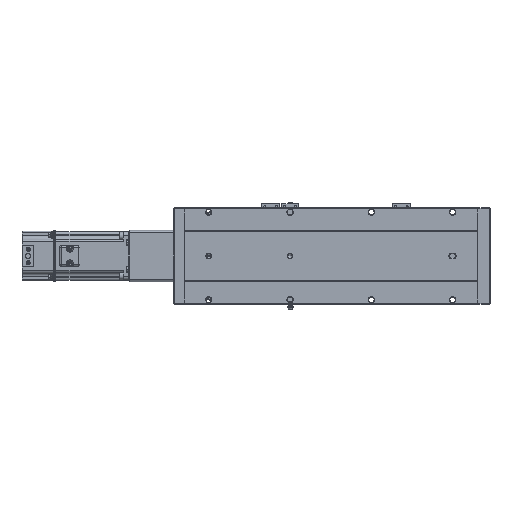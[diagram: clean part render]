
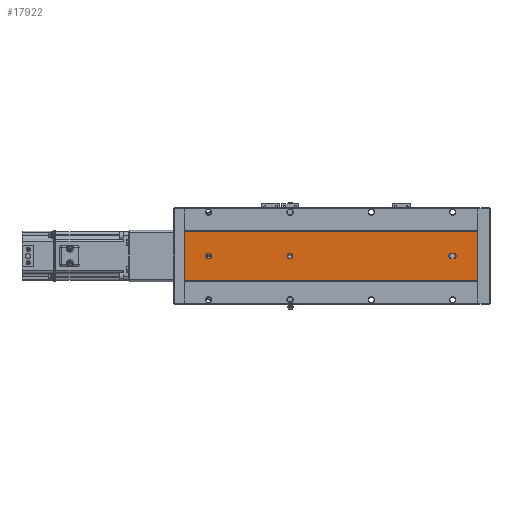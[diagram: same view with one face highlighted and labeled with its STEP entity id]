
A CAD part, front view. The second image highlights one B-rep face of the part: STEP entity #17922.
In plain terms, the highlighted planar face has unit normal (0, -1, 0).
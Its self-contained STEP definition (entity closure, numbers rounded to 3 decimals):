
#493 = EDGE_CURVE ( 'NONE', #4199, #62830, #75055, .T. ) ;
#1843 = AXIS2_PLACEMENT_3D ( 'NONE', #38014, #44311, #31120 ) ;
#2028 = CIRCLE ( 'NONE', #26612, 3.5 ) ;
#2579 = VERTEX_POINT ( 'NONE', #46319 ) ;
#2583 = DIRECTION ( 'NONE',  ( 0., 0., -1. ) ) ;
#4199 = VERTEX_POINT ( 'NONE', #30181 ) ;
#4500 = CIRCLE ( 'NONE', #70162, 3.5 ) ;
#5598 = LINE ( 'NONE', #44609, #47547 ) ;
#6415 = DIRECTION ( 'NONE',  ( 0., 0., 1. ) ) ;
#6951 = EDGE_CURVE ( 'NONE', #8586, #4199, #2028, .T. ) ;
#7330 = DIRECTION ( 'NONE',  ( 0., 1., 0. ) ) ;
#7348 = EDGE_CURVE ( 'NONE', #62830, #31433, #76902, .T. ) ;
#7372 = CARTESIAN_POINT ( 'NONE',  ( -43.392, -52.848, 30. ) ) ;
#7636 = VERTEX_POINT ( 'NONE', #61624 ) ;
#8586 = VERTEX_POINT ( 'NONE', #69158 ) ;
#8928 = EDGE_CURVE ( 'NONE', #26456, #40181, #73605, .T. ) ;
#11183 = EDGE_LOOP ( 'NONE', ( #35909, #57990 ) ) ;
#13083 = DIRECTION ( 'NONE',  ( 0., 1., 0. ) ) ;
#13781 = EDGE_LOOP ( 'NONE', ( #41190, #32007 ) ) ;
#14823 = CARTESIAN_POINT ( 'NONE',  ( -36.392, -52.848, 32. ) ) ;
#16371 = VECTOR ( 'NONE', #6415, 1000. ) ;
#17088 = CIRCLE ( 'NONE', #69554, 3.5 ) ;
#17359 = DIRECTION ( 'NONE',  ( 0., 0., -1. ) ) ;
#17762 = FACE_OUTER_BOUND ( 'NONE', #81482, .T. ) ;
#17922 = ADVANCED_FACE ( 'NONE', ( #37392, #31200, #19892, #17762 ), #48951, .F. ) ;
#18699 = ORIENTED_EDGE ( 'NONE', *, *, #30885, .T. ) ;
#19753 = CARTESIAN_POINT ( 'NONE',  ( -9.892, -52.848, 0. ) ) ;
#19892 = FACE_BOUND ( 'NONE', #11183, .T. ) ;
#20026 = ORIENTED_EDGE ( 'NONE', *, *, #6951, .T. ) ;
#20498 = CARTESIAN_POINT ( 'NONE',  ( -39.892, -52.848, 30. ) ) ;
#22229 = LINE ( 'NONE', #61297, #72400 ) ;
#22588 = EDGE_CURVE ( 'NONE', #7636, #59141, #4500, .T. ) ;
#22879 = DIRECTION ( 'NONE',  ( 0., 1., 0. ) ) ;
#23464 = ORIENTED_EDGE ( 'NONE', *, *, #7348, .T. ) ;
#24925 = ORIENTED_EDGE ( 'NONE', *, *, #48994, .T. ) ;
#25499 = DIRECTION ( 'NONE',  ( 0., 0., 1. ) ) ;
#26024 = DIRECTION ( 'NONE',  ( 0., 0., 1. ) ) ;
#26456 = VERTEX_POINT ( 'NONE', #33244 ) ;
#26612 = AXIS2_PLACEMENT_3D ( 'NONE', #20498, #33712, #73484 ) ;
#30181 = CARTESIAN_POINT ( 'NONE',  ( -39.892, -52.848, 26.5 ) ) ;
#30885 = EDGE_CURVE ( 'NONE', #2579, #67923, #5598, .T. ) ;
#30946 = CARTESIAN_POINT ( 'NONE',  ( -9.892, -52.848, 361. ) ) ;
#31120 = DIRECTION ( 'NONE',  ( 0., 0., 1. ) ) ;
#31200 = FACE_BOUND ( 'NONE', #13781, .T. ) ;
#31433 = VERTEX_POINT ( 'NONE', #49110 ) ;
#31709 = DIRECTION ( 'NONE',  ( 0., 0., 1. ) ) ;
#31793 = DIRECTION ( 'NONE',  ( 0., 1., 0. ) ) ;
#32007 = ORIENTED_EDGE ( 'NONE', *, *, #22588, .T. ) ;
#32868 = ORIENTED_EDGE ( 'NONE', *, *, #493, .T. ) ;
#33056 = EDGE_CURVE ( 'NONE', #2579, #80367, #69364, .T. ) ;
#33244 = CARTESIAN_POINT ( 'NONE',  ( -39.892, -52.848, 334.5 ) ) ;
#33712 = DIRECTION ( 'NONE',  ( 0., 1., 0. ) ) ;
#34148 = CARTESIAN_POINT ( 'NONE',  ( -69.892, -52.848, 361. ) ) ;
#34919 = VECTOR ( 'NONE', #61220, 1000. ) ;
#35909 = ORIENTED_EDGE ( 'NONE', *, *, #81903, .T. ) ;
#37176 = CARTESIAN_POINT ( 'NONE',  ( -39.892, -52.848, 30. ) ) ;
#37392 = FACE_BOUND ( 'NONE', #69602, .T. ) ;
#37750 = VERTEX_POINT ( 'NONE', #19753 ) ;
#37980 = DIRECTION ( 'NONE',  ( 0., 0., 1. ) ) ;
#38014 = CARTESIAN_POINT ( 'NONE',  ( -39.892, -52.848, 331. ) ) ;
#39640 = VECTOR ( 'NONE', #59304, 1000. ) ;
#40181 = VERTEX_POINT ( 'NONE', #82006 ) ;
#41190 = ORIENTED_EDGE ( 'NONE', *, *, #48611, .T. ) ;
#42054 = LINE ( 'NONE', #55233, #34919 ) ;
#43200 = AXIS2_PLACEMENT_3D ( 'NONE', #59737, #13083, #26024 ) ;
#44004 = CIRCLE ( 'NONE', #61503, 3.5 ) ;
#44311 = DIRECTION ( 'NONE',  ( 0., 1., 0. ) ) ;
#44609 = CARTESIAN_POINT ( 'NONE',  ( -69.892, -52.848, 361. ) ) ;
#45683 = CARTESIAN_POINT ( 'NONE',  ( -43.392, -52.848, 361. ) ) ;
#46319 = CARTESIAN_POINT ( 'NONE',  ( -69.892, -52.848, 361. ) ) ;
#47096 = EDGE_CURVE ( 'NONE', #80367, #37750, #42054, .T. ) ;
#47135 = ORIENTED_EDGE ( 'NONE', *, *, #60083, .T. ) ;
#47547 = VECTOR ( 'NONE', #17359, 1000. ) ;
#48208 = ORIENTED_EDGE ( 'NONE', *, *, #50847, .T. ) ;
#48595 = ORIENTED_EDGE ( 'NONE', *, *, #33056, .F. ) ;
#48611 = EDGE_CURVE ( 'NONE', #59141, #7636, #17088, .T. ) ;
#48951 = PLANE ( 'NONE',  #64835 ) ;
#48994 = EDGE_CURVE ( 'NONE', #84556, #8586, #22229, .T. ) ;
#49110 = CARTESIAN_POINT ( 'NONE',  ( -43.392, -52.848, 32. ) ) ;
#49919 = CIRCLE ( 'NONE', #1843, 3.5 ) ;
#50847 = EDGE_CURVE ( 'NONE', #67923, #37750, #58465, .T. ) ;
#53156 = DIRECTION ( 'NONE',  ( 0., 0., 1. ) ) ;
#55233 = CARTESIAN_POINT ( 'NONE',  ( -9.892, -52.848, 361. ) ) ;
#55493 = CARTESIAN_POINT ( 'NONE',  ( -69.892, -52.848, 361. ) ) ;
#57990 = ORIENTED_EDGE ( 'NONE', *, *, #8928, .T. ) ;
#58015 = CARTESIAN_POINT ( 'NONE',  ( -69.892, -52.848, 0. ) ) ;
#58465 = LINE ( 'NONE', #58015, #82075 ) ;
#59141 = VERTEX_POINT ( 'NONE', #68846 ) ;
#59304 = DIRECTION ( 'NONE',  ( 1., 0., 0. ) ) ;
#59737 = CARTESIAN_POINT ( 'NONE',  ( -39.892, -52.848, 331. ) ) ;
#60083 = EDGE_CURVE ( 'NONE', #31433, #84556, #44004, .T. ) ;
#61220 = DIRECTION ( 'NONE',  ( 0., 0., -1. ) ) ;
#61297 = CARTESIAN_POINT ( 'NONE',  ( -36.392, -52.848, 361. ) ) ;
#61503 = AXIS2_PLACEMENT_3D ( 'NONE', #64368, #31793, #25499 ) ;
#61624 = CARTESIAN_POINT ( 'NONE',  ( -39.892, -52.848, 234.5 ) ) ;
#62830 = VERTEX_POINT ( 'NONE', #7372 ) ;
#62902 = DIRECTION ( 'NONE',  ( 0., 0., 1. ) ) ;
#64368 = CARTESIAN_POINT ( 'NONE',  ( -39.892, -52.848, 32. ) ) ;
#64835 = AXIS2_PLACEMENT_3D ( 'NONE', #55493, #22879, #62902 ) ;
#67923 = VERTEX_POINT ( 'NONE', #72317 ) ;
#68846 = CARTESIAN_POINT ( 'NONE',  ( -39.892, -52.848, 227.5 ) ) ;
#69158 = CARTESIAN_POINT ( 'NONE',  ( -36.392, -52.848, 30. ) ) ;
#69364 = LINE ( 'NONE', #34148, #39640 ) ;
#69554 = AXIS2_PLACEMENT_3D ( 'NONE', #80071, #7330, #53156 ) ;
#69602 = EDGE_LOOP ( 'NONE', ( #23464, #47135, #24925, #20026, #32868 ) ) ;
#70162 = AXIS2_PLACEMENT_3D ( 'NONE', #77191, #82892, #37980 ) ;
#71790 = DIRECTION ( 'NONE',  ( 1., 0., 0. ) ) ;
#72317 = CARTESIAN_POINT ( 'NONE',  ( -69.892, -52.848, 0. ) ) ;
#72400 = VECTOR ( 'NONE', #2583, 1000. ) ;
#73370 = AXIS2_PLACEMENT_3D ( 'NONE', #37176, #83490, #31709 ) ;
#73484 = DIRECTION ( 'NONE',  ( 0., 0., 1. ) ) ;
#73605 = CIRCLE ( 'NONE', #43200, 3.5 ) ;
#73788 = ORIENTED_EDGE ( 'NONE', *, *, #47096, .F. ) ;
#75055 = CIRCLE ( 'NONE', #73370, 3.5 ) ;
#76902 = LINE ( 'NONE', #45683, #16371 ) ;
#77191 = CARTESIAN_POINT ( 'NONE',  ( -39.892, -52.848, 231. ) ) ;
#80071 = CARTESIAN_POINT ( 'NONE',  ( -39.892, -52.848, 231. ) ) ;
#80367 = VERTEX_POINT ( 'NONE', #30946 ) ;
#81482 = EDGE_LOOP ( 'NONE', ( #48208, #73788, #48595, #18699 ) ) ;
#81903 = EDGE_CURVE ( 'NONE', #40181, #26456, #49919, .T. ) ;
#82006 = CARTESIAN_POINT ( 'NONE',  ( -39.892, -52.848, 327.5 ) ) ;
#82075 = VECTOR ( 'NONE', #71790, 1000. ) ;
#82892 = DIRECTION ( 'NONE',  ( 0., 1., 0. ) ) ;
#83490 = DIRECTION ( 'NONE',  ( 0., 1., 0. ) ) ;
#84556 = VERTEX_POINT ( 'NONE', #14823 ) ;
